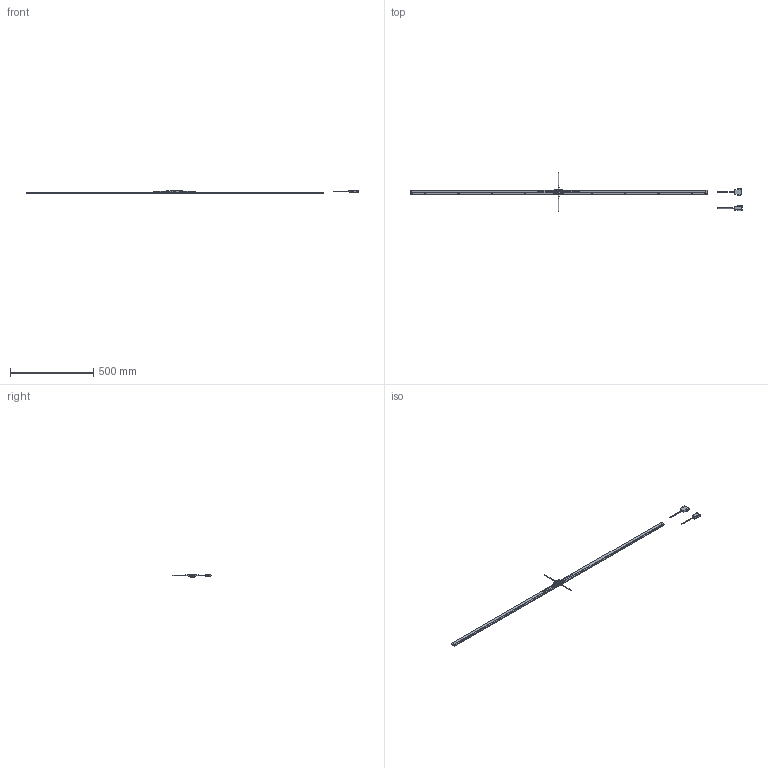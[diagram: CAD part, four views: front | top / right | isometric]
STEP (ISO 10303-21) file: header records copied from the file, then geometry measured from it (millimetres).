
FILE_DESCRIPTION(('Creo Elements/Direct Modeling STEP Export'),'2;1');
FILE_NAME('ABS_ST700-1700A.stp','2018-02-14T11:40:11',(''),(''),'Creo Elements/Direct Modeling STEP processor for AP214 (Solid Model)','Creo Elements/Direct Modeling 18.1B 29-Sep-2012 (C) Parametric Technology GmbH','');
FILE_SCHEMA(('AUTOMOTIVE_DESIGN { 1 0 10303 214 1 1 1 1 }'));
Length unit declared in the file: millimetre
Products named in the file (10): Scale_1700; Detector_Head_D; Detector_Head_L; Detector_Head_R; Detector_Head_U; Detector_Head; Connector（Dsub15pin）; Connector（Dsub9pin）; Connector; ABS_ST700-1700A
Assembly tree (9 placements, depth 3):
  ABS_ST700-1700A
    Connector
      Connector（Dsub9pin）
      Connector（Dsub15pin）
    Detector_Head
      Detector_Head_U
      Detector_Head_R
      Detector_Head_L
      Detector_Head_D
    Scale_1700
Bounding box: 1989.3 x 227.7 x 23.3 mm (x, y, z)
Volume: 422347.4 mm3; surface area: 155401.1 mm2
Topology: 7 solids, 7 shells, 6748 faces, 18470 edges, 12164 vertices
Faces by surface type: plane 5278, cylinder 1179, cone 165, torus 58, extrusion 36, bspline 24, revolution 8
Entity records: 215986 total; most frequent: CARTESIAN_POINT 44636, ORIENTED_EDGE 36868, DIRECTION 33275, EDGE_CURVE 18434, VECTOR 15593, LINE 15577, VERTEX_POINT 12164, AXIS2_PLACEMENT_3D 8835
